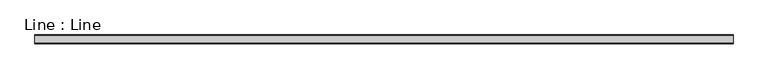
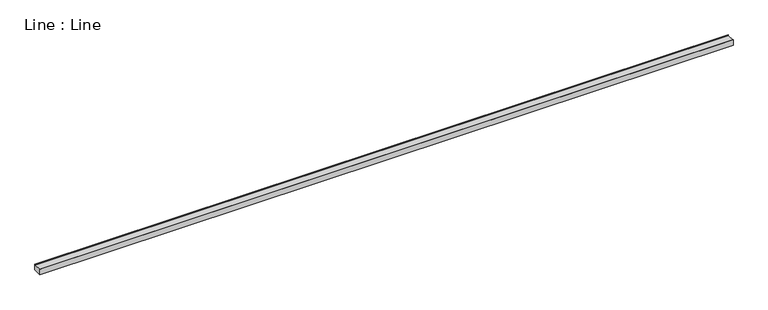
"""IFC4 building model written with IfcOpenShell, lengths in millimetres: light fixture geometry, Line : Line."""

from ifc_helpers import new_model, si_unit, frame, origin, place, context, project, spatial, polyline, outline, extrude, source, transform, mapped, element, save


def line_line_12a0ce7c(model_context):
    return source(origin(), model_context, "Body", "SweptSolid", [
        extrude(outline(polyline([(-13.2699605, -0.6594598), (13.2699605, -0.6594598), (13.2699605, 0.4921885), (15.2699605, 0.4921885), (15.2699605, -18.9218892), (-15.2699605, -18.9218892), (-15.2699605, 0.4921885), (-13.2699605, 0.4921885), (-13.2699605, -0.6594598)])), frame((0.0, 0.0, 0.0), z_axis=(1.0, 0.0, 0.0), x_axis=(0.0, 1.0, 0.0)), (0.0, 0.0, 1.0), 2434.3698551),
    ])


if __name__ == "__main__":
    model = new_model("IFC4")
    model_context = context("Model", 3, world=origin())
    ifc_project = project(units=[si_unit("LENGTHUNIT", "METRE", prefix="MILLI")], contexts=[model_context])
    site = spatial("IfcSite", under=ifc_project)
    building = spatial("IfcBuilding", under=site)
    placement = place(None, origin())
    line_line_shape = line_line_12a0ce7c(model_context)
    element("IfcLightFixture", 1, ObjectType="Line : Line", at=placement, inside=building, context=model_context, shape_type="MappedRepresentation", body=[
        mapped(line_line_shape, transform((0.0, 0.0, 0.0), x_axis=(1.0, 0.0, 0.0), y_axis=(0.0, 1.0, 0.0), z_axis=(0.0, 0.0, 1.0))),
    ])
    save(model, "model.ifc")
